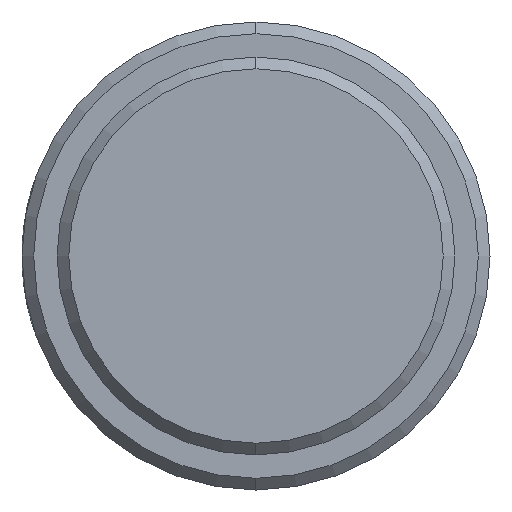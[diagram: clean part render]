
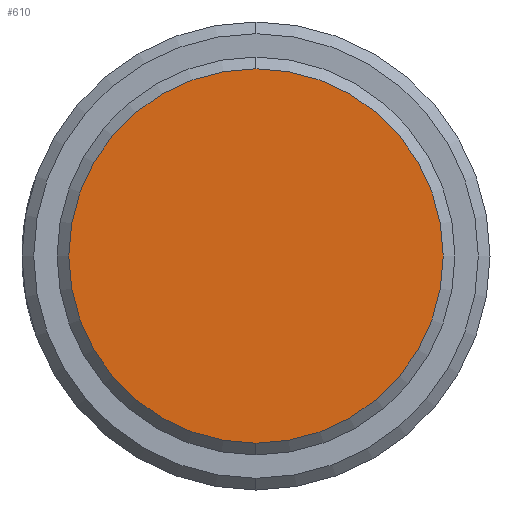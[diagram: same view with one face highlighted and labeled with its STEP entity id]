
A CAD part, left-side view. The second image highlights one B-rep face of the part: STEP entity #610.
In plain terms, the highlighted planar face has unit normal (-1, 0, 0).
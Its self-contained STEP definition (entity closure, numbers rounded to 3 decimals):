
#38 = CARTESIAN_POINT ( 'NONE',  ( 0., 0., 0. ) ) ;
#111 = EDGE_LOOP ( 'NONE', ( #166, #238 ) ) ;
#125 = AXIS2_PLACEMENT_3D ( 'NONE', #465, #625, #265 ) ;
#140 = CARTESIAN_POINT ( 'NONE',  ( 0., 0., 8. ) ) ;
#148 = DIRECTION ( 'NONE',  ( 0., 0., 1. ) ) ;
#155 = EDGE_CURVE ( 'NONE', #423, #426, #666, .T. ) ;
#166 = ORIENTED_EDGE ( 'NONE', *, *, #557, .T. ) ;
#191 = CARTESIAN_POINT ( 'NONE',  ( 0., 0., -8. ) ) ;
#206 = AXIS2_PLACEMENT_3D ( 'NONE', #38, #620, #148 ) ;
#238 = ORIENTED_EDGE ( 'NONE', *, *, #155, .T. ) ;
#242 = CIRCLE ( 'NONE', #206, 8. ) ;
#265 = DIRECTION ( 'NONE',  ( 0., 0., 1. ) ) ;
#407 = AXIS2_PLACEMENT_3D ( 'NONE', #611, #509, #505 ) ;
#423 = VERTEX_POINT ( 'NONE', #140 ) ;
#426 = VERTEX_POINT ( 'NONE', #191 ) ;
#465 = CARTESIAN_POINT ( 'NONE',  ( 0., 0., 0. ) ) ;
#505 = DIRECTION ( 'NONE',  ( 0., 0., 1. ) ) ;
#509 = DIRECTION ( 'NONE',  ( -1., 0., 0. ) ) ;
#557 = EDGE_CURVE ( 'NONE', #426, #423, #242, .T. ) ;
#560 = FACE_OUTER_BOUND ( 'NONE', #111, .T. ) ;
#610 = ADVANCED_FACE ( 'NONE', ( #560 ), #673, .T. ) ;
#611 = CARTESIAN_POINT ( 'NONE',  ( 0., 0., 0. ) ) ;
#620 = DIRECTION ( 'NONE',  ( -1., 0., 0. ) ) ;
#625 = DIRECTION ( 'NONE',  ( -1., 0., 0. ) ) ;
#666 = CIRCLE ( 'NONE', #125, 8. ) ;
#673 = PLANE ( 'NONE',  #407 ) ;
